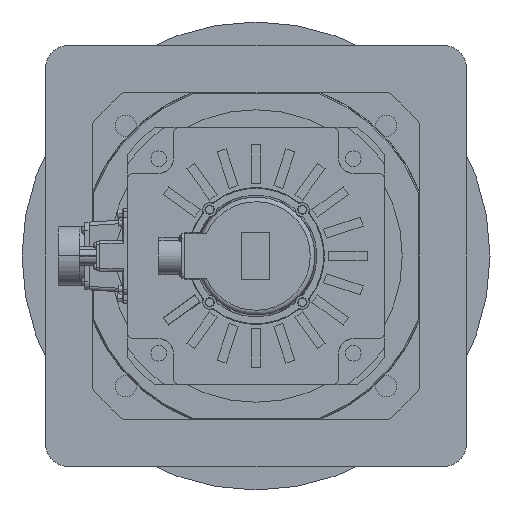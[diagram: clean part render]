
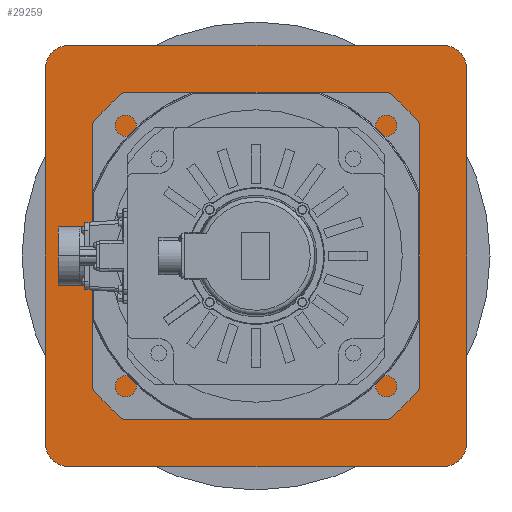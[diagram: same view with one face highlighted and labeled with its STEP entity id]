
A CAD part, left-side view. The second image highlights one B-rep face of the part: STEP entity #29259.
In plain terms, the highlighted planar face has unit normal (-1, 0, 0).
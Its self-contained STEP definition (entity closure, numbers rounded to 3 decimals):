
#1524 = DIRECTION ( 'NONE',  ( 0., 1., 0. ) ) ;
#1749 = ORIENTED_EDGE ( 'NONE', *, *, #10400, .F. ) ;
#2169 = VERTEX_POINT ( 'NONE', #10922 ) ;
#2798 = EDGE_CURVE ( 'NONE', #19243, #6738, #16973, .T. ) ;
#3080 = VECTOR ( 'NONE', #26961, 1000. ) ;
#3391 = ORIENTED_EDGE ( 'NONE', *, *, #15679, .T. ) ;
#4106 = DIRECTION ( 'NONE',  ( -1., 0., 0. ) ) ;
#4409 = AXIS2_PLACEMENT_3D ( 'NONE', #7271, #11967, #12172 ) ;
#4560 = CARTESIAN_POINT ( 'NONE',  ( -313., -180., 160. ) ) ;
#4787 = AXIS2_PLACEMENT_3D ( 'NONE', #17717, #15468, #1524 ) ;
#4894 = CARTESIAN_POINT ( 'NONE',  ( -313., 160., -180. ) ) ;
#5281 = ORIENTED_EDGE ( 'NONE', *, *, #20747, .T. ) ;
#5522 = VECTOR ( 'NONE', #13876, 1000. ) ;
#6335 = ORIENTED_EDGE ( 'NONE', *, *, #28485, .T. ) ;
#6411 = AXIS2_PLACEMENT_3D ( 'NONE', #22802, #25135, #27475 ) ;
#6654 = CARTESIAN_POINT ( 'NONE',  ( -313., -180., -160. ) ) ;
#6738 = VERTEX_POINT ( 'NONE', #26355 ) ;
#6920 = EDGE_CURVE ( 'NONE', #7321, #25242, #13307, .T. ) ;
#7271 = CARTESIAN_POINT ( 'NONE',  ( -313., -160., -160. ) ) ;
#7321 = VERTEX_POINT ( 'NONE', #4894 ) ;
#8020 = VERTEX_POINT ( 'NONE', #20580 ) ;
#8528 = CIRCLE ( 'NONE', #29060, 20. ) ;
#8920 = CARTESIAN_POINT ( 'NONE',  ( -313., 180., 160. ) ) ;
#9113 = CARTESIAN_POINT ( 'NONE',  ( -313., 160., 180. ) ) ;
#9848 = AXIS2_PLACEMENT_3D ( 'NONE', #21886, #14617, #26469 ) ;
#9945 = EDGE_CURVE ( 'NONE', #25242, #8020, #29206, .T. ) ;
#10265 = ORIENTED_EDGE ( 'NONE', *, *, #6920, .T. ) ;
#10400 = EDGE_CURVE ( 'NONE', #6738, #19243, #22414, .T. ) ;
#10451 = DIRECTION ( 'NONE',  ( -1., 0., 0. ) ) ;
#10922 = CARTESIAN_POINT ( 'NONE',  ( -313., 180., -160. ) ) ;
#11586 = EDGE_CURVE ( 'NONE', #15903, #2169, #28069, .T. ) ;
#11633 = CIRCLE ( 'NONE', #15161, 20. ) ;
#11685 = ORIENTED_EDGE ( 'NONE', *, *, #9945, .T. ) ;
#11967 = DIRECTION ( 'NONE',  ( 1., 0., 0. ) ) ;
#12172 = DIRECTION ( 'NONE',  ( 0., 1., 0. ) ) ;
#12399 = EDGE_LOOP ( 'NONE', ( #1749, #16591 ) ) ;
#12582 = CARTESIAN_POINT ( 'NONE',  ( -313., -160., -180. ) ) ;
#12774 = VECTOR ( 'NONE', #23844, 1000. ) ;
#13307 = LINE ( 'NONE', #26561, #3080 ) ;
#13525 = LINE ( 'NONE', #9113, #5522 ) ;
#13836 = FACE_OUTER_BOUND ( 'NONE', #16938, .T. ) ;
#13876 = DIRECTION ( 'NONE',  ( 0., 1., 0. ) ) ;
#14112 = VERTEX_POINT ( 'NONE', #14427 ) ;
#14427 = CARTESIAN_POINT ( 'NONE',  ( -313., -160., 180. ) ) ;
#14617 = DIRECTION ( 'NONE',  ( -1., 0., 0. ) ) ;
#15161 = AXIS2_PLACEMENT_3D ( 'NONE', #24177, #15495, #17959 ) ;
#15468 = DIRECTION ( 'NONE',  ( -1., 0., 0. ) ) ;
#15495 = DIRECTION ( 'NONE',  ( -1., 0., 0. ) ) ;
#15679 = EDGE_CURVE ( 'NONE', #26074, #15903, #22027, .T. ) ;
#15903 = VERTEX_POINT ( 'NONE', #8920 ) ;
#16030 = DIRECTION ( 'NONE',  ( 0., 0., 1. ) ) ;
#16591 = ORIENTED_EDGE ( 'NONE', *, *, #2798, .F. ) ;
#16649 = CARTESIAN_POINT ( 'NONE',  ( -313., 50., 0. ) ) ;
#16938 = EDGE_LOOP ( 'NONE', ( #11685, #6335, #5281, #18060, #3391, #28406, #29091, #10265 ) ) ;
#16973 = CIRCLE ( 'NONE', #6411, 50. ) ;
#17056 = DIRECTION ( 'NONE',  ( 0., -1., 0. ) ) ;
#17259 = CARTESIAN_POINT ( 'NONE',  ( -313., 0., 0. ) ) ;
#17717 = CARTESIAN_POINT ( 'NONE',  ( -313., -160., -160. ) ) ;
#17959 = DIRECTION ( 'NONE',  ( 0., -1., 0. ) ) ;
#18060 = ORIENTED_EDGE ( 'NONE', *, *, #28472, .T. ) ;
#19243 = VERTEX_POINT ( 'NONE', #16649 ) ;
#20580 = CARTESIAN_POINT ( 'NONE',  ( -313., -180., -160. ) ) ;
#20747 = EDGE_CURVE ( 'NONE', #22072, #14112, #8528, .T. ) ;
#21886 = CARTESIAN_POINT ( 'NONE',  ( -313., 160., 160. ) ) ;
#21944 = LINE ( 'NONE', #6654, #25588 ) ;
#22027 = CIRCLE ( 'NONE', #9848, 20. ) ;
#22072 = VERTEX_POINT ( 'NONE', #4560 ) ;
#22414 = CIRCLE ( 'NONE', #29772, 50. ) ;
#22802 = CARTESIAN_POINT ( 'NONE',  ( -313., 0., 0. ) ) ;
#23844 = DIRECTION ( 'NONE',  ( 0., 0., -1. ) ) ;
#23857 = CARTESIAN_POINT ( 'NONE',  ( -313., 160., 180. ) ) ;
#24177 = CARTESIAN_POINT ( 'NONE',  ( -313., 160., -160. ) ) ;
#25109 = DIRECTION ( 'NONE',  ( 0., 1., 0. ) ) ;
#25135 = DIRECTION ( 'NONE',  ( -1., 0., 0. ) ) ;
#25242 = VERTEX_POINT ( 'NONE', #12582 ) ;
#25588 = VECTOR ( 'NONE', #16030, 1000. ) ;
#25877 = CARTESIAN_POINT ( 'NONE',  ( -313., 180., -160. ) ) ;
#25942 = PLANE ( 'NONE',  #4409 ) ;
#26074 = VERTEX_POINT ( 'NONE', #23857 ) ;
#26355 = CARTESIAN_POINT ( 'NONE',  ( -313., -50., 0. ) ) ;
#26469 = DIRECTION ( 'NONE',  ( 0., -1., 0. ) ) ;
#26561 = CARTESIAN_POINT ( 'NONE',  ( -313., 160., -180. ) ) ;
#26650 = FACE_BOUND ( 'NONE', #12399, .T. ) ;
#26961 = DIRECTION ( 'NONE',  ( 0., -1., 0. ) ) ;
#27475 = DIRECTION ( 'NONE',  ( 0., -1., 0. ) ) ;
#28069 = LINE ( 'NONE', #25877, #12774 ) ;
#28406 = ORIENTED_EDGE ( 'NONE', *, *, #11586, .T. ) ;
#28472 = EDGE_CURVE ( 'NONE', #14112, #26074, #13525, .T. ) ;
#28485 = EDGE_CURVE ( 'NONE', #8020, #22072, #21944, .T. ) ;
#29060 = AXIS2_PLACEMENT_3D ( 'NONE', #29851, #4106, #25109 ) ;
#29091 = ORIENTED_EDGE ( 'NONE', *, *, #29929, .T. ) ;
#29206 = CIRCLE ( 'NONE', #4787, 20. ) ;
#29259 = ADVANCED_FACE ( 'NONE', ( #26650, #13836 ), #25942, .F. ) ;
#29772 = AXIS2_PLACEMENT_3D ( 'NONE', #17259, #10451, #17056 ) ;
#29851 = CARTESIAN_POINT ( 'NONE',  ( -313., -160., 160. ) ) ;
#29929 = EDGE_CURVE ( 'NONE', #2169, #7321, #11633, .T. ) ;
